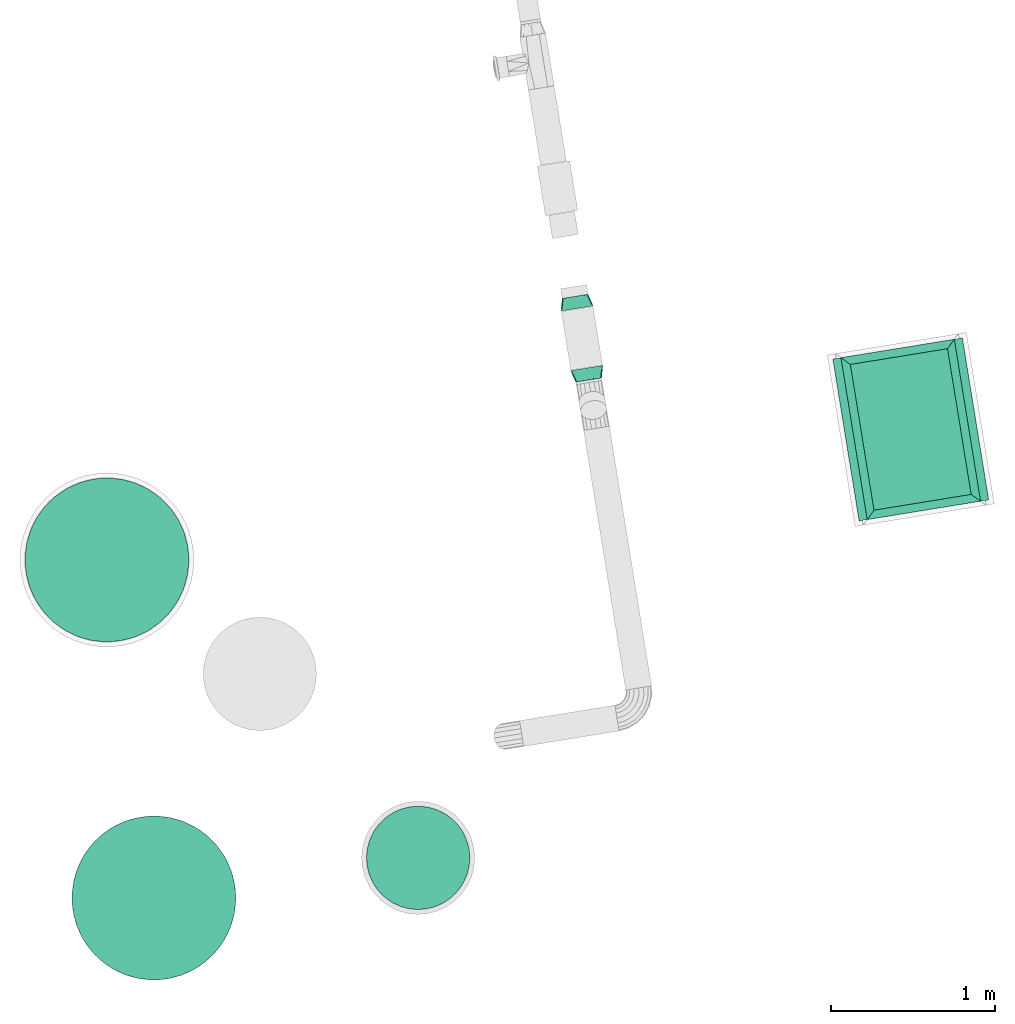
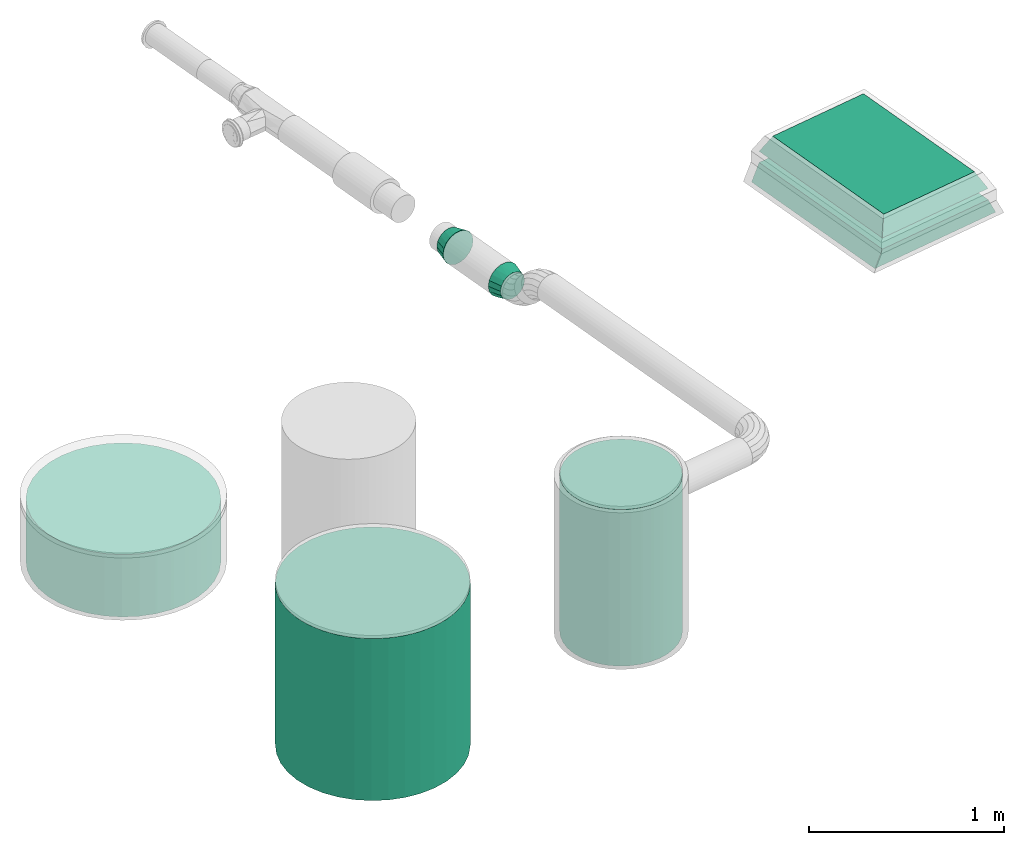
# One storey, part 4 of 6: 4 flow fittings, 3 flow segments.
"""IFC2X3 building model written with IfcOpenShell, lengths in millimetres."""

from ifc_helpers import new_model, entity, si_unit, converted_unit, derived_unit, direction, frame, origin, origin_with_axes, place, context, subcontext, project, spatial, faceted_brep, source, transform, mapped, material, type_object, element, save


model = new_model("IFC2X3")

# Units and contexts
plan_context = context("Plan", 3, precision=1e-05, world=origin_with_axes())
model_context = context("Model", 3, precision=0.01, world=origin(), true_north=direction((6.12323399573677e-17, 1.0)))
body_context = subcontext(model_context, "Body", "Model", "MODEL_VIEW")
ifc_project = project(units=[converted_unit("PLANEANGLEUNIT", "DEGREE", entity("IfcPositiveLengthMeasure", 0.0174532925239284), si_unit("PLANEANGLEUNIT", "RADIAN"), dimensions=[0, 0, 0, 0, 0, 0, 0]), si_unit("AREAUNIT", "SQUARE_METRE"), si_unit("LENGTHUNIT", "METRE", prefix="MILLI"), si_unit("MASSUNIT", "GRAM", prefix="KILO"), si_unit("POWERUNIT", "WATT"), si_unit("PRESSUREUNIT", "PASCAL", prefix="KILO"), si_unit("FORCEUNIT", "NEWTON", prefix="KILO"), si_unit("ELECTRICVOLTAGEUNIT", "VOLT"), si_unit("ELECTRICCURRENTUNIT", "AMPERE"), si_unit("THERMODYNAMICTEMPERATUREUNIT", "DEGREE_CELSIUS"), si_unit("TIMEUNIT", "SECOND"), si_unit("VOLUMEUNIT", "CUBIC_METRE"), derived_unit("LINEARVELOCITYUNIT", [(si_unit("LENGTHUNIT", "METRE"), 1), (si_unit("TIMEUNIT", "SECOND"), -1)]), derived_unit("VOLUMETRICFLOWRATEUNIT", [(si_unit("VOLUMEUNIT", "CUBIC_METRE"), 1), (si_unit("TIMEUNIT", "SECOND"), -1)]), derived_unit("THERMALTRANSMITTANCEUNIT", [(si_unit("POWERUNIT", "WATT"), 1), (si_unit("THERMODYNAMICTEMPERATUREUNIT", "KELVIN"), -1), (si_unit("AREAUNIT", "SQUARE_METRE"), -1)]), derived_unit("SOUNDPRESSUREUNIT", [(si_unit("PRESSUREUNIT", "PASCAL"), 1)])], contexts=[model_context, plan_context])

# Site, building, storey
site_placement = place(None, frame((-0.00071070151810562, 0.00438415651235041, 0.0), z_axis=(0.0, 0.0, 1.0), x_axis=(-0.160236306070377, 0.987078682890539, 0.0)))
site = spatial("IfcSite", under=ifc_project, at=site_placement, Name="Default", CompositionType="ELEMENT")
building_placement = place(site_placement, origin_with_axes())
building = spatial("IfcBuilding", under=site, at=building_placement, CompositionType="ELEMENT")
storey_placement = place(building_placement, frame((0.0, 0.0, 55630.0), z_axis=(0.0, 0.0, 1.0), x_axis=(1.0, 0.0, 0.0)))
storey = spatial("IfcBuildingStorey", under=building, at=storey_placement, Name="Nivå E", CompositionType="ELEMENT", Elevation=55630.0)

# Flow fittings
ifc_material = material(Name="Material_Duct")
duct_fitting_type_1 = type_object("IfcDuctFittingType", Name="magirect_reduction1_001:magirect_reduction1_001", PredefinedType="NOTDEFINED", material=ifc_material)
shared_shape_1 = source(origin(), body_context, "Body", "Brep", [
    faceted_brep([(100.0, 350.0, 500.0), (100.0, -350.0, 500.0), (100.0, -350.0, -500.0), (100.0, 350.0, -500.0), (0.0, 0.0, 500.0), (0.0, 400.0, 500.0), (0.0, 400.0, 0.0), (0.0, 400.0, -500.0), (0.0, 0.0, -500.0), (0.0, -400.0, -500.0), (0.0, -400.0, 0.0), (0.0, -400.0, 500.0)], [[[0, 1, 2, 3]], [[4, 5, 6, 7, 8, 9, 10, 11]], [[4, 11, 1, 0]], [[11, 10, 2, 1]], [[10, 9, 2]], [[9, 8, 3, 2]], [[8, 7, 3]], [[7, 6, 0, 3]], [[6, 5, 0]], [[5, 4, 0]]]),
])
flow_fitting_1_placement = place(storey_placement, frame((765967.619644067, -506652.480498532, 2450.0), z_axis=(-1.0, 0.0, 0.0), x_axis=(0.0, 0.0, 1.0)))
element("IfcFlowFitting", 1, at=flow_fitting_1_placement, inside=storey, type_object=duct_fitting_type_1, material=ifc_material, Name="magirect_reduction1_001:magirect_reduction1_001", ObjectType="magirect_reduction1_001:magirect_reduction1_001", context=body_context, shape_type="MappedRepresentation", body=[
    mapped(shared_shape_1, transform((0.0, 0.0, 0.0), scale=1.0)),
])
duct_fitting_type_2 = type_object("IfcDuctFittingType", Name="magicirc_reduction_001:magicirc_reduction_001", PredefinedType="NOTDEFINED", material=ifc_material)
shared_shape_2 = source(origin(), body_context, "Body", "Brep", [
    faceted_brep([(75.0, 17.3648177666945, 98.4807753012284), (75.0, -17.3648177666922, 98.4807753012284), (75.0, -50.0, 86.6025403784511), (75.0, -76.6044443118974, 64.2787609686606), (75.0, -93.96926207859, 34.2020143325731), (75.0, -100.0, 0.0), (75.0, -93.9692620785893, -34.2020143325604), (75.0, -76.6044443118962, -64.278760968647), (75.0, -50.0, -86.6025403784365), (75.0, -17.3648177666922, -98.4807753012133), (75.0, 17.3648177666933, -98.4807753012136), (75.0, 50.0, -86.6025403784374), (75.0, 76.6044443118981, -64.2787609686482), (75.0, 93.9692620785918, -34.2020143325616), (75.0, 100.0, 0.0), (75.0, 93.9692620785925, 34.202014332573), (75.0, 76.6044443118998, 64.2787609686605), (75.0, 50.0, 86.6025403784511), (0.0, 15.307337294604, 76.9551813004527), (0.0, 30.6146745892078, 73.9103626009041), (0.0, 43.5916085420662, 65.2394525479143), (0.0, 56.5685424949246, 56.5685424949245), (0.0, 65.239452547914, 43.5916085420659), (0.0, 73.9103626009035, 30.6146745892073), (0.0, 76.9551813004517, 15.3073372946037), (0.0, 80.0, 0.0), (0.0, 76.9551813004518, -15.3073372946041), (0.0, 73.9103626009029, -30.6146745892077), (0.0, 65.239452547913, -43.5916085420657), (0.0, 56.5685424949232, -56.5685424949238), (0.0, 43.5916085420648, -65.239452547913), (0.0, 30.6146745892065, -73.9103626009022), (0.0, 15.3073372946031, -76.9551813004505), (0.0, 0.0, -80.0), (0.0, -15.3073372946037, -76.9551813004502), (0.0, -30.614674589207, -73.9103626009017), (0.0, -43.5916085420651, -65.2394525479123), (0.0, -56.5685424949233, -56.5685424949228), (0.0, -65.2394525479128, -43.5916085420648), (0.0, -73.9103626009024, -30.6146745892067), (0.0, -76.9551813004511, -15.3073372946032), (0.0, -80.0, 0.0), (0.0, -76.9551813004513, 15.3073372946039), (0.0, -73.9103626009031, 30.6146745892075), (0.0, -65.2394525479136, 43.591608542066), (0.0, -56.5685424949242, 56.5685424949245), (0.0, -43.5916085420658, 65.2394525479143), (0.0, -30.6146745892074, 73.9103626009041), (0.0, -15.3073372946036, 76.9551813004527), (0.0, 0.0, 80.0)], [[[0, 1, 2, 3, 4, 5, 6, 7, 8, 9, 10, 11, 12, 13, 14, 15, 16, 17]], [[18, 19, 20, 21, 22, 23, 24, 25, 26, 27, 28, 29, 30, 31, 32, 33, 34, 35, 36, 37, 38, 39, 40, 41, 42, 43, 44, 45, 46, 47, 48, 49]], [[5, 40, 6]], [[6, 38, 7]], [[8, 37, 36, 35]], [[34, 33, 9, 35]], [[38, 6, 39]], [[40, 5, 41]], [[35, 9, 8]], [[10, 33, 32, 31]], [[38, 37, 7]], [[37, 8, 7]], [[40, 39, 6]], [[13, 27, 26]], [[11, 31, 30, 29]], [[14, 26, 25]], [[13, 28, 27]], [[31, 11, 10]], [[12, 11, 29]], [[28, 13, 12]], [[13, 26, 14]], [[12, 29, 28]], [[33, 10, 9]], [[14, 24, 15]], [[15, 22, 16]], [[17, 21, 20, 19]], [[18, 49, 0, 19]], [[22, 15, 23]], [[24, 14, 25]], [[19, 0, 17]], [[1, 49, 48, 47]], [[22, 21, 16]], [[21, 17, 16]], [[24, 23, 15]], [[4, 43, 42]], [[2, 47, 46, 45]], [[5, 42, 41]], [[4, 44, 43]], [[47, 2, 1]], [[3, 2, 45]], [[44, 4, 3]], [[4, 42, 5]], [[3, 45, 44]], [[49, 1, 0]]]),
])
flow_fitting_2_placement = place(storey_placement, frame((766579.119654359, -504762.771936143, 2400.0), z_axis=(0.0, 0.0, 1.0), x_axis=(1.0, 0.0, 0.0)))
element("IfcFlowFitting", 2, at=flow_fitting_2_placement, inside=storey, type_object=duct_fitting_type_2, material=ifc_material, Name="magicirc_reduction_001:magicirc_reduction_001", ObjectType="magicirc_reduction_001:magicirc_reduction_001", context=body_context, shape_type="MappedRepresentation", body=[
    mapped(shared_shape_2, transform((0.0, 0.0, 0.0), scale=1.0)),
])
duct_fitting_type_3 = type_object("IfcDuctFittingType", Name="magicirc_reduction_001:magicirc_reduction_001", PredefinedType="NOTDEFINED", material=ifc_material)
shared_shape_3 = source(origin(), body_context, "Body", "Brep", [
    faceted_brep([(75.0, -80.0, 0.0), (75.0, -76.9551813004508, -15.3073372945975), (75.0, -73.9103626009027, -30.6146745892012), (75.0, -65.2394525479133, -43.5916085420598), (75.0, -56.5685424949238, -56.5685424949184), (75.0, -43.5916085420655, -65.2394525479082), (75.0, -30.6146745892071, -73.9103626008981), (75.0, -15.3073372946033, -76.9551813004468), (75.0, 0.0, -80.0), (75.0, 15.3073372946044, -76.9551813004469), (75.0, 30.6146745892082, -73.9103626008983), (75.0, 43.5916085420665, -65.2394525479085), (75.0, 56.5685424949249, -56.5685424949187), (75.0, 65.2394525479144, -43.5916085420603), (75.0, 73.9103626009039, -30.6146745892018), (75.0, 76.9551813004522, -15.3073372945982), (75.0, 80.0, 0.0), (75.0, 76.9551813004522, 15.3073372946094), (75.0, 73.9103626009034, 30.6146745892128), (75.0, 65.2394525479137, 43.5916085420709), (75.0, 56.5685424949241, 56.568542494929), (75.0, 43.5916085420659, 65.2394525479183), (75.0, 30.6146745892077, 73.9103626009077), (75.0, 15.3073372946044, 76.9551813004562), (75.0, 0.0, 80.0), (75.0, -15.3073372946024, 76.9551813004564), (75.0, -30.6146745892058, 73.9103626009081), (75.0, -43.5916085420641, 65.2394525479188), (75.0, -56.5685424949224, 56.5685424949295), (75.0, -65.2394525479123, 43.5916085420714), (75.0, -73.9103626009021, 30.6146745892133), (75.0, -76.9551813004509, 15.3073372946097), (0.0, 100.0, 0.0), (0.0, 93.9692620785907, -34.2020143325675), (0.0, 76.604444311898, -64.2787609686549), (0.0, 50.0, -86.6025403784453), (0.0, 17.3648177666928, -98.4807753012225), (0.0, -17.3648177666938, -98.4807753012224), (0.0, -50.0, -86.602540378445), (0.0, -76.604444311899, -64.2787609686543), (0.0, -93.9692620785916, -34.2020143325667), (0.0, -100.0, 0.0), (0.0, -93.9692620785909, 34.2020143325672), (0.0, -76.6044443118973, 64.2787609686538), (0.0, -50.0, 86.602540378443), (0.0, -17.3648177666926, 98.4807753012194), (0.0, 17.3648177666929, 98.4807753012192), (0.0, 50.0, 86.6025403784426), (0.0, 76.6044443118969, 64.2787609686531), (0.0, 93.9692620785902, 34.2020143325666)], [[[0, 1, 2, 3, 4, 5, 6, 7, 8, 9, 10, 11, 12, 13, 14, 15, 16, 17, 18, 19, 20, 21, 22, 23, 24, 25, 26, 27, 28, 29, 30, 31]], [[32, 33, 34, 35, 36, 37, 38, 39, 40, 41, 42, 43, 44, 45, 46, 47, 48, 49]], [[32, 15, 33]], [[40, 2, 1]], [[35, 12, 11, 10]], [[39, 4, 3]], [[33, 13, 34]], [[12, 35, 34]], [[10, 36, 35]], [[13, 33, 14]], [[13, 12, 34]], [[38, 6, 5, 4]], [[37, 8, 7, 6]], [[36, 10, 9, 8]], [[2, 40, 3]], [[0, 41, 1]], [[15, 32, 16]], [[37, 6, 38]], [[39, 3, 40]], [[41, 40, 1]], [[4, 39, 38]], [[15, 14, 33]], [[8, 37, 36]], [[41, 31, 42]], [[49, 18, 17]], [[44, 28, 27, 26]], [[48, 20, 19]], [[42, 29, 43]], [[28, 44, 43]], [[26, 45, 44]], [[29, 42, 30]], [[29, 28, 43]], [[47, 22, 21, 20]], [[46, 24, 23, 22]], [[45, 26, 25, 24]], [[18, 49, 19]], [[16, 32, 17]], [[31, 41, 0]], [[46, 22, 47]], [[48, 19, 49]], [[32, 49, 17]], [[20, 48, 47]], [[31, 30, 42]], [[24, 46, 45]]]),
])
flow_fitting_3_placement = place(storey_placement, frame((767021.11965436, -504762.771928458, 2400.0), z_axis=(0.0, 0.0, 1.0), x_axis=(1.0, 0.0, 0.0)))
element("IfcFlowFitting", 3, at=flow_fitting_3_placement, inside=storey, type_object=duct_fitting_type_3, material=ifc_material, Name="magicirc_reduction_001:magicirc_reduction_001", ObjectType="magicirc_reduction_001:magicirc_reduction_001", context=body_context, shape_type="MappedRepresentation", body=[
    mapped(shared_shape_3, transform((0.0, 0.0, 0.0), scale=1.0)),
])
duct_fitting_type_4 = type_object("IfcDuctFittingType", Name="magirect_reduction1_001:magirect_reduction1_001", PredefinedType="NOTDEFINED", material=ifc_material)
shared_shape_4 = source(origin(), body_context, "Body", "Brep", [
    faceted_brep([(100.0, 300.0, 450.0), (100.0, -300.0, 450.0), (100.0, -300.0, -450.0), (100.0, 300.0, -450.0), (0.0, 0.0, 500.0), (0.0, 350.0, 500.0), (0.0, 350.0, 0.0), (0.0, 350.0, -500.0), (0.0, 0.0, -500.0), (0.0, -350.0, -500.0), (0.0, -350.0, 0.0), (0.0, -350.0, 500.0)], [[[0, 1, 2, 3]], [[4, 5, 6, 7, 8, 9, 10, 11]], [[4, 11, 1, 0]], [[11, 10, 2, 1]], [[10, 9, 2]], [[9, 8, 3, 2]], [[8, 7, 3]], [[7, 6, 0, 3]], [[6, 5, 0]], [[5, 4, 0]]]),
])
flow_fitting_4_placement = place(storey_placement, frame((765967.619644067, -506652.480498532, 2619.99999999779), z_axis=(-1.0, 4.56141827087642e-09, 0.0), x_axis=(0.0, 0.0, 1.0)))
element("IfcFlowFitting", 4, at=flow_fitting_4_placement, inside=storey, type_object=duct_fitting_type_4, material=ifc_material, Name="magirect_reduction1_001:magirect_reduction1_001", ObjectType="magirect_reduction1_001:magirect_reduction1_001", context=body_context, shape_type="MappedRepresentation", body=[
    mapped(shared_shape_4, transform((0.0, 0.0, 0.0), scale=1.0)),
])

# Flow segments
duct_segment_type = type_object("IfcDuctSegmentType", Name="Round Duct:KK001T - Spiro kanaler, Forsinket stål", PredefinedType="NOTDEFINED")
flow_segment_1_placement = place(storey_placement, origin_with_axes())
element("IfcFlowSegment", 5, at=flow_segment_1_placement, inside=storey, type_object=duct_segment_type, Name="Round Duct:KK001T - Spiro kanaler, Forsinket stål", ObjectType="Round Duct:KK001T - Spiro kanaler, Forsinket stål", context=body_context, shape_type="Brep", body=[
    faceted_brep([(764387.693858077, -501640.738959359, 2369.9999999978), (764380.097734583, -501727.563048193, 2369.9999999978), (764380.097734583, -501727.563048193, 3383.6989592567), (764387.693858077, -501640.738959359, 3383.6989592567), (764380.097734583, -501553.914870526, 2369.9999999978), (764380.097734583, -501553.914870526, 3383.6989592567), (764357.54016847, -501469.728887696, 2369.9999999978), (764357.54016847, -501469.728887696, 3383.6989592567), (764320.706559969, -501390.738959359, 2369.9999999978), (764320.706559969, -501390.738959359, 3383.6989592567), (764270.716079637, -501319.345154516, 2369.9999999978), (764270.716079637, -501319.345154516, 3383.6989592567), (764209.08766292, -501257.7167378, 2369.9999999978), (764209.08766292, -501257.7167378, 3383.6989592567), (764137.693858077, -501207.726257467, 2369.9999999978), (764137.693858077, -501207.726257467, 3383.6989592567), (764058.70392974, -501170.892648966, 2369.9999999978), (764058.70392974, -501170.892648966, 3383.6989592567), (763974.517946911, -501148.335082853, 2369.9999999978), (763974.517946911, -501148.335082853, 3383.6989592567), (763887.693858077, -501140.738959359, 2369.9999999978), (763887.693858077, -501140.738959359, 3383.6989592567), (763800.869769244, -501148.335082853, 2369.9999999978), (763800.869769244, -501148.335082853, 3383.6989592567), (763716.683786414, -501170.892648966, 2369.9999999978), (763716.683786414, -501170.892648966, 3383.6989592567), (763637.693858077, -501207.726257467, 2369.9999999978), (763637.693858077, -501207.726257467, 3383.6989592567), (763566.300053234, -501257.7167378, 2369.9999999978), (763566.300053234, -501257.7167378, 3383.6989592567), (763504.671636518, -501319.345154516, 2369.9999999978), (763504.671636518, -501319.345154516, 3383.6989592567), (763454.681156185, -501390.738959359, 2369.9999999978), (763454.681156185, -501390.738959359, 3383.6989592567), (763417.847547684, -501469.728887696, 2369.9999999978), (763417.847547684, -501469.728887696, 3383.6989592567), (763395.289981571, -501553.914870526, 2369.9999999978), (763395.289981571, -501553.914870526, 3383.6989592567), (763387.693858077, -501640.738959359, 2369.9999999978), (763387.693858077, -501640.738959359, 3383.6989592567), (763395.289981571, -501727.563048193, 2369.9999999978), (763395.289981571, -501727.563048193, 3383.6989592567), (763417.847547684, -501811.749031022, 2369.9999999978), (763417.847547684, -501811.749031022, 3383.6989592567), (763454.681156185, -501890.738959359, 2369.9999999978), (763454.681156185, -501890.738959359, 3383.6989592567), (763504.671636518, -501962.132764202, 2369.9999999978), (763504.671636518, -501962.132764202, 3383.6989592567), (763566.300053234, -502023.761180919, 2369.9999999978), (763566.300053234, -502023.761180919, 3383.6989592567), (763637.693858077, -502073.751661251, 2369.9999999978), (763637.693858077, -502073.751661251, 3383.6989592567), (763716.683786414, -502110.585269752, 2369.9999999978), (763716.683786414, -502110.585269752, 3383.6989592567), (763800.869769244, -502133.142835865, 2369.9999999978), (763800.869769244, -502133.142835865, 3383.6989592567), (763887.693858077, -502140.738959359, 2369.9999999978), (763887.693858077, -502140.738959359, 3383.6989592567), (763974.517946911, -502133.142835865, 2369.9999999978), (763974.517946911, -502133.142835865, 3383.6989592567), (764058.70392974, -502110.585269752, 2369.9999999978), (764058.70392974, -502110.585269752, 3383.6989592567), (764137.693858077, -502073.751661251, 2369.9999999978), (764137.693858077, -502073.751661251, 3383.6989592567), (764209.08766292, -502023.761180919, 2369.9999999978), (764209.08766292, -502023.761180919, 3383.6989592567), (764270.716079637, -501962.132764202, 2369.9999999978), (764270.716079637, -501962.132764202, 3383.6989592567), (764320.706559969, -501890.738959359, 2369.9999999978), (764320.706559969, -501890.738959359, 3383.6989592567), (764357.54016847, -501811.749031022, 2369.9999999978), (764357.54016847, -501811.749031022, 3383.6989592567)], [[[0, 1, 2, 3]], [[4, 0, 3, 5]], [[6, 4, 5, 7]], [[8, 6, 7, 9]], [[10, 8, 9, 11]], [[12, 10, 11, 13]], [[14, 12, 13, 15]], [[16, 14, 15, 17]], [[18, 16, 17, 19]], [[20, 18, 19, 21]], [[22, 20, 21, 23]], [[24, 22, 23, 25]], [[26, 24, 25, 27]], [[28, 26, 27, 29]], [[30, 28, 29, 31]], [[32, 30, 31, 33]], [[34, 32, 33, 35]], [[36, 34, 35, 37]], [[38, 36, 37, 39]], [[40, 38, 39, 41]], [[42, 40, 41, 43]], [[44, 42, 43, 45]], [[46, 44, 45, 47]], [[48, 46, 47, 49]], [[50, 48, 49, 51]], [[52, 50, 51, 53]], [[54, 52, 53, 55]], [[56, 54, 55, 57]], [[58, 56, 57, 59]], [[60, 58, 59, 61]], [[62, 60, 61, 63]], [[64, 62, 63, 65]], [[66, 64, 65, 67]], [[68, 66, 67, 69]], [[70, 68, 69, 71]], [[1, 70, 71, 2]], [[3, 2, 71, 69, 67, 65, 63, 61, 59, 57, 55, 53, 51, 49, 47, 45, 43, 41, 39, 37, 35, 33, 31, 29, 27, 25, 23, 21, 19, 17, 15, 13, 11, 9, 7, 5]], [[4, 6, 8, 10, 12, 14, 16, 18, 20, 22, 24, 26, 28, 30, 32, 34, 36, 38, 40, 42, 44, 46, 48, 50, 52, 54, 56, 58, 60, 62, 64, 66, 68, 70, 1, 0]]], orient=[[False], [False], [False], [False], [False], [False], [False], [False], [False], [False], [False], [False], [False], [False], [False], [False], [False], [False], [False], [False], [False], [False], [False], [False], [False], [False], [False], [False], [False], [False], [False], [False], [False], [False], [False], [False], [False], [False]]),
])
flow_segment_2_placement = place(storey_placement, origin_with_axes())
element("IfcFlowSegment", 6, at=flow_segment_2_placement, inside=storey, type_object=duct_segment_type, Name="Round Duct:KK001T - Spiro kanaler, Forsinket stål", ObjectType="Round Duct:KK001T - Spiro kanaler, Forsinket stål", context=body_context, shape_type="Brep", body=[
    faceted_brep([(765467.619644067, -501688.383412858, 2369.9999999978), (765475.21576756, -501601.559324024, 2369.9999999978), (765475.21576756, -501601.559324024, 2760.00000000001), (765467.619644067, -501688.383412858, 2760.00000000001), (765475.21576756, -501775.207501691, 2369.9999999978), (765475.21576756, -501775.207501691, 2760.00000000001), (765497.773333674, -501859.393484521, 2369.9999999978), (765497.773333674, -501859.393484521, 2760.00000000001), (765534.606942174, -501938.383412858, 2369.9999999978), (765534.606942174, -501938.383412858, 2760.00000000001), (765584.597422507, -502009.777217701, 2369.9999999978), (765584.597422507, -502009.777217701, 2760.00000000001), (765646.225839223, -502071.405634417, 2369.9999999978), (765646.225839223, -502071.405634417, 2760.00000000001), (765717.619644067, -502121.39611475, 2369.9999999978), (765717.619644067, -502121.39611475, 2760.00000000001), (765796.609572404, -502158.229723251, 2369.9999999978), (765796.609572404, -502158.229723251, 2760.00000000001), (765880.795555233, -502180.787289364, 2369.9999999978), (765880.795555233, -502180.787289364, 2760.00000000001), (765967.619644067, -502188.383412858, 2369.9999999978), (765967.619644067, -502188.383412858, 2760.00000000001), (766054.4437329, -502180.787289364, 2369.9999999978), (766054.4437329, -502180.787289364, 2760.00000000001), (766138.629715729, -502158.229723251, 2369.9999999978), (766138.629715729, -502158.229723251, 2760.00000000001), (766217.619644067, -502121.39611475, 2369.9999999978), (766217.619644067, -502121.39611475, 2760.00000000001), (766289.01344891, -502071.405634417, 2369.9999999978), (766289.01344891, -502071.405634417, 2760.00000000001), (766350.641865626, -502009.777217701, 2369.9999999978), (766350.641865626, -502009.777217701, 2760.00000000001), (766400.632345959, -501938.383412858, 2369.9999999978), (766400.632345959, -501938.383412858, 2760.00000000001), (766437.46595446, -501859.393484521, 2369.9999999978), (766437.46595446, -501859.393484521, 2760.00000000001), (766460.023520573, -501775.207501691, 2369.9999999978), (766460.023520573, -501775.207501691, 2760.00000000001), (766467.619644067, -501688.383412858, 2369.9999999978), (766467.619644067, -501688.383412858, 2760.00000000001), (766460.023520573, -501601.559324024, 2369.9999999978), (766460.023520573, -501601.559324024, 2760.00000000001), (766437.46595446, -501517.373341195, 2369.9999999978), (766437.46595446, -501517.373341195, 2760.00000000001), (766400.632345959, -501438.383412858, 2369.9999999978), (766400.632345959, -501438.383412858, 2760.00000000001), (766350.641865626, -501366.989608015, 2369.9999999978), (766350.641865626, -501366.989608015, 2760.00000000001), (766289.01344891, -501305.361191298, 2369.9999999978), (766289.01344891, -501305.361191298, 2760.00000000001), (766217.619644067, -501255.370710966, 2369.9999999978), (766217.619644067, -501255.370710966, 2760.00000000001), (766138.629715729, -501218.537102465, 2369.9999999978), (766138.629715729, -501218.537102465, 2760.00000000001), (766054.4437329, -501195.979536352, 2369.9999999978), (766054.4437329, -501195.979536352, 2760.00000000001), (765967.619644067, -501188.383412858, 2369.9999999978), (765967.619644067, -501188.383412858, 2760.00000000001), (765880.795555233, -501195.979536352, 2369.9999999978), (765880.795555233, -501195.979536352, 2760.00000000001), (765796.609572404, -501218.537102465, 2369.9999999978), (765796.609572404, -501218.537102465, 2760.00000000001), (765717.619644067, -501255.370710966, 2369.9999999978), (765717.619644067, -501255.370710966, 2760.00000000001), (765646.225839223, -501305.361191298, 2369.9999999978), (765646.225839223, -501305.361191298, 2760.00000000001), (765584.597422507, -501366.989608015, 2369.9999999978), (765584.597422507, -501366.989608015, 2760.00000000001), (765534.606942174, -501438.383412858, 2369.9999999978), (765534.606942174, -501438.383412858, 2760.00000000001), (765497.773333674, -501517.373341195, 2369.9999999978), (765497.773333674, -501517.373341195, 2760.00000000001)], [[[0, 1, 2, 3]], [[4, 0, 3, 5]], [[6, 4, 5, 7]], [[8, 6, 7, 9]], [[10, 8, 9, 11]], [[12, 10, 11, 13]], [[14, 12, 13, 15]], [[16, 14, 15, 17]], [[18, 16, 17, 19]], [[20, 18, 19, 21]], [[22, 20, 21, 23]], [[24, 22, 23, 25]], [[26, 24, 25, 27]], [[28, 26, 27, 29]], [[30, 28, 29, 31]], [[32, 30, 31, 33]], [[34, 32, 33, 35]], [[36, 34, 35, 37]], [[38, 36, 37, 39]], [[40, 38, 39, 41]], [[42, 40, 41, 43]], [[44, 42, 43, 45]], [[46, 44, 45, 47]], [[48, 46, 47, 49]], [[50, 48, 49, 51]], [[52, 50, 51, 53]], [[54, 52, 53, 55]], [[56, 54, 55, 57]], [[58, 56, 57, 59]], [[60, 58, 59, 61]], [[62, 60, 61, 63]], [[64, 62, 63, 65]], [[66, 64, 65, 67]], [[68, 66, 67, 69]], [[70, 68, 69, 71]], [[1, 70, 71, 2]], [[3, 2, 71, 69, 67, 65, 63, 61, 59, 57, 55, 53, 51, 49, 47, 45, 43, 41, 39, 37, 35, 33, 31, 29, 27, 25, 23, 21, 19, 17, 15, 13, 11, 9, 7, 5]], [[4, 6, 8, 10, 12, 14, 16, 18, 20, 22, 24, 26, 28, 30, 32, 34, 36, 38, 40, 42, 44, 46, 48, 50, 52, 54, 56, 58, 60, 62, 64, 66, 68, 70, 1, 0]]], orient=[[False], [False], [False], [False], [False], [False], [False], [False], [False], [False], [False], [False], [False], [False], [False], [False], [False], [False], [False], [False], [False], [False], [False], [False], [False], [False], [False], [False], [False], [False], [False], [False], [False], [False], [False], [False], [False], [False]]),
])
flow_segment_3_placement = place(storey_placement, origin_with_axes())
element("IfcFlowSegment", 7, at=flow_segment_3_placement, inside=storey, type_object=duct_segment_type, Name="Round Duct:KK001T - Spiro kanaler, Forsinket stål", ObjectType="Round Duct:KK001T - Spiro kanaler, Forsinket stål", context=body_context, shape_type="Brep", body=[
    faceted_brep([(763555.859796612, -503270.00861507, 2369.99944306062), (763560.645354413, -503215.309439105, 2369.99943779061), (763560.646433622, -503215.309439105, 3350.00034161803), (763555.86087582, -503270.00861507, 3350.00034688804), (763560.645354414, -503324.707791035, 2369.99976662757), (763560.646433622, -503324.707791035, 3350.00034161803), (763574.856621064, -503377.744960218, 2369.99942214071), (763574.857700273, -503377.744960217, 3350.00032596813), (763598.06179442, -503427.50861507, 2369.99939658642), (763598.062873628, -503427.50861507, 3350.00030041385), (763629.55579703, -503472.486712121, 2369.99936190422), (763629.556876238, -503472.486712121, 3350.00026573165), (763668.381699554, -503511.312614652, 2369.9926810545), (763668.382778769, -503511.312614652, 3350.00022297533), (763713.359796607, -503542.806617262, 2369.99488963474), (763713.36087582, -503542.806617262, 3350.00017344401), (763763.123451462, -503566.011790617, 2369.99659620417), (763763.124530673, -503566.011790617, 3350.00011864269), (763816.160620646, -503580.223057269, 2369.99809196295), (763816.161699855, -503580.223057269, 3350.00006023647), (763870.859796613, -503585.00861507, 2369.99975879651), (763870.86087582, -503585.00861507, 3349.99999999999), (763925.558972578, -503580.223057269, 2369.99975925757), (763925.560051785, -503580.223057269, 3349.99993976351), (763978.59614176, -503566.011790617, 2369.99916974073), (763978.597220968, -503566.011790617, 3349.99988135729), (764028.359796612, -503542.806617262, 2369.99859692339), (764028.36087582, -503542.806617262, 3349.99982655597), (764073.337893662, -503511.312614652, 2369.99793609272), (764073.338972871, -503511.312614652, 3349.99977702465), (764112.163796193, -503472.486712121, 2369.9971092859), (764112.164875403, -503472.486712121, 3349.99973426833), (764143.657798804, -503427.50861507, 2369.99879575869), (764143.658878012, -503427.50861507, 3349.99969958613), (764166.862972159, -503377.744960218, 2369.99877020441), (764166.864051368, -503377.744960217, 3349.99967403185), (764181.074238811, -503324.707791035, 2369.99875455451), (764181.075318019, -503324.707791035, 3349.99965838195), (764185.859796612, -503270.00861507, 2369.99934172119), (764185.86087582, -503270.00861507, 3349.99965311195), (764181.074238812, -503215.309439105, 2369.99977716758), (764181.075318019, -503215.309439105, 3349.99965838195), (764166.86297216, -503162.272269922, 2369.99933319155), (764166.864051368, -503162.272269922, 3349.99967403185), (764143.657798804, -503112.50861507, 2369.99886511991), (764143.658878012, -503112.50861507, 3349.99969958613), (764112.163796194, -503067.530518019, 2369.99883044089), (764112.164875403, -503067.530518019, 3349.99973426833), (764073.337893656, -503028.704615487, 2369.9922101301), (764073.338972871, -503028.704615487, 3349.99977702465), (764028.359796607, -502997.210612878, 2369.99452118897), (764028.36087582, -502997.210612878, 3349.99982655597), (763978.596141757, -502974.005439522, 2369.9963394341), (763978.597220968, -502974.005439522, 3349.99988135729), (763925.558972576, -502959.794172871, 2369.99814493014), (763925.560051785, -502959.794172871, 3349.99993976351), (763870.859796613, -502955.00861507, 2369.99980176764), (763870.86087582, -502955.00861507, 3349.99999999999), (763816.160620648, -502959.794172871, 2369.99980178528), (763816.161699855, -502959.794172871, 3350.00006023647), (763763.123451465, -502974.005439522, 2369.99938874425), (763763.124530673, -502974.005439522, 3350.00011864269), (763713.359796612, -502997.210612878, 2369.99892432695), (763713.36087582, -502997.210612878, 3350.00017344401), (763668.38169956, -503028.704615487, 2369.99836048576), (763668.382778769, -503028.704615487, 3350.00022297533), (763629.555797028, -503067.530518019, 2369.99761577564), (763629.556876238, -503067.530518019, 3350.00026573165), (763598.06179442, -503112.50861507, 2369.99939658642), (763598.062873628, -503112.50861507, 3350.00030041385), (763574.856621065, -503162.272269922, 2369.99942214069), (763574.857700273, -503162.272269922, 3350.00032596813), (763560.645354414, -503324.707791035, 2369.9999999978), (763574.856621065, -503377.744960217, 2369.9999999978), (763598.061794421, -503427.50861507, 2369.9999999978), (763629.55579703, -503472.486712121, 2369.9999999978), (763668.381699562, -503511.312614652, 2369.9999999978), (763713.359796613, -503542.806617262, 2369.9999999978), (763763.123451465, -503566.011790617, 2369.9999999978), (763816.160620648, -503580.223057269, 2369.9999999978), (763870.859796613, -503585.00861507, 2369.9999999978), (763925.558972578, -503580.223057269, 2369.9999999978), (763978.596141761, -503566.011790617, 2369.9999999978), (764028.359796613, -503542.806617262, 2369.9999999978), (764073.337893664, -503511.312614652, 2369.99999999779), (764112.163796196, -503472.486712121, 2369.9999999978), (764143.657798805, -503427.50861507, 2369.9999999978), (764166.862972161, -503377.744960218, 2369.9999999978), (764181.074238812, -503324.707791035, 2369.99999999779), (764185.859796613, -503270.00861507, 2369.99999999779), (764181.074238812, -503215.309439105, 2369.9999999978), (764166.862972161, -503162.272269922, 2369.99999999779), (764143.657798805, -503112.50861507, 2369.9999999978), (764112.163796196, -503067.530518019, 2369.9999999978), (764073.337893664, -503028.704615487, 2369.9999999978), (764028.359796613, -502997.210612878, 2369.99999999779), (763978.596141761, -502974.005439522, 2369.9999999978), (763925.558972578, -502959.794172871, 2369.9999999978), (763870.859796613, -502955.00861507, 2369.9999999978), (763816.160620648, -502959.794172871, 2369.99999999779), (763763.123451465, -502974.005439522, 2369.9999999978), (763713.359796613, -502997.210612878, 2369.9999999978), (763668.381699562, -503028.704615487, 2369.99999999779), (763629.55579703, -503067.530518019, 2369.9999999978), (763598.061794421, -503112.50861507, 2369.9999999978), (763574.856621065, -503162.272269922, 2369.9999999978), (763560.645354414, -503215.309439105, 2369.9999999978), (763555.859796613, -503270.00861507, 2369.99999999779)], [[[0, 1, 2, 3]], [[4, 0, 3, 5]], [[6, 4, 5, 7]], [[8, 6, 7, 9]], [[10, 8, 9, 11]], [[12, 10, 11, 13]], [[14, 12, 13, 15]], [[16, 14, 15, 17]], [[18, 16, 17, 19]], [[20, 18, 19, 21]], [[22, 20, 21, 23]], [[24, 22, 23, 25]], [[26, 24, 25, 27]], [[28, 26, 27, 29]], [[30, 28, 29, 31]], [[32, 30, 31, 33]], [[34, 32, 33, 35]], [[36, 34, 35, 37]], [[38, 36, 37, 39]], [[40, 38, 39, 41]], [[42, 40, 41, 43]], [[44, 42, 43, 45]], [[46, 44, 45, 47]], [[48, 46, 47, 49]], [[50, 48, 49, 51]], [[52, 50, 51, 53]], [[54, 52, 53, 55]], [[56, 54, 55, 57]], [[58, 56, 57, 59]], [[60, 58, 59, 61]], [[62, 60, 61, 63]], [[64, 62, 63, 65]], [[66, 64, 65, 67]], [[68, 66, 67, 69]], [[70, 68, 69, 71]], [[1, 70, 71, 2]], [[3, 2, 71, 69, 67, 65, 63, 61, 59, 57, 55, 53, 51, 49, 47, 45, 43, 41, 39, 37, 35, 33, 31, 29, 27, 25, 23, 21, 19, 17, 15, 13, 11, 9, 7, 5]], [[72, 73, 74, 75, 76, 77, 78, 79, 80, 81, 82, 83, 84, 85, 86, 87, 88, 89, 90, 91, 92, 93, 94, 95, 96, 97, 98, 99, 100, 101, 102, 103, 104, 105, 106, 107]]], orient=[[False], [False], [False], [False], [False], [False], [False], [False], [False], [False], [False], [False], [False], [False], [False], [False], [False], [False], [False], [False], [False], [False], [False], [False], [False], [False], [False], [False], [False], [False], [False], [False], [False], [False], [False], [False], [False], [False]]),
])

save(model, "model.ifc")
